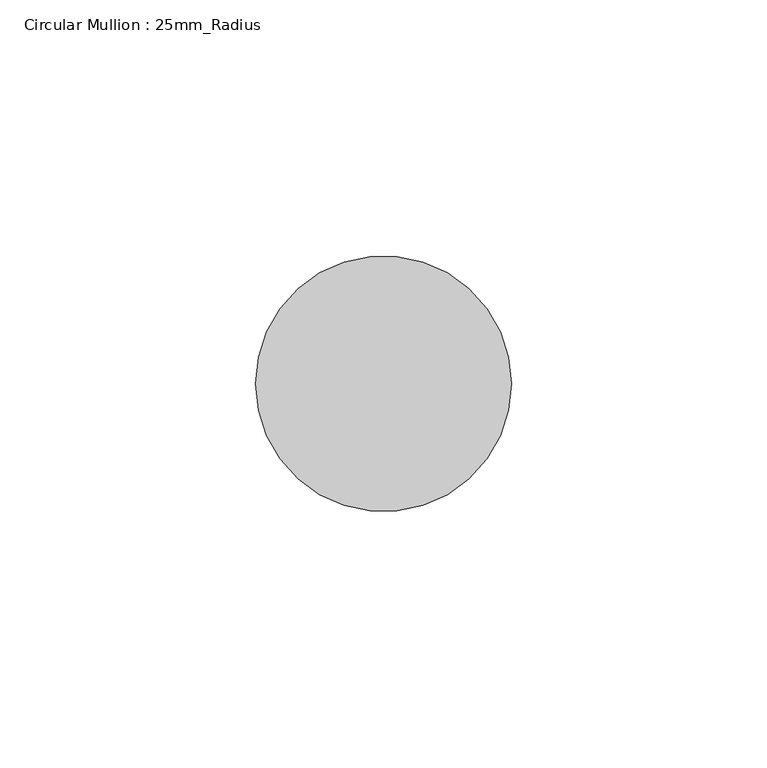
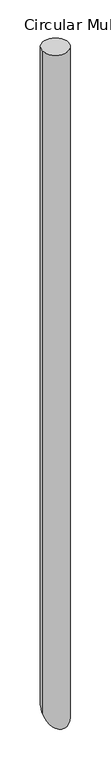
"""IFC4 building model written with IfcOpenShell, lengths in millimetres: member geometry, Circular Mullion : 25mm_Radius."""

from ifc_helpers import new_model, si_unit, frame, origin, place, context, project, spatial, circle_curve, ellipse_curve, source, transform, mapped, element, save
from ifc_brep_helpers import plane_surface, cylinder_surface, advanced_brep


def circular_mullion_25mm_radius_d9b63839(model_context):
    return source(origin(), model_context, "Body", "AdvancedBrep", [
        advanced_brep(
        [(0.0, 0.0, 0.0), (-50.0, 0.0, 0.0), (0.0, 0.0, -1346.7743851), (-50.0, 0.0, -1346.7743851)],
        [
            (0, 1, circle_curve(frame((-25.0, 0.0, 0.0), z_axis=(0.0, 0.0, 1.0), x_axis=(1.0, 0.0, 0.0)), 25.0)),
            (1, 0, circle_curve(frame((-25.0, 0.0, 0.0), z_axis=(0.0, 0.0, 1.0), x_axis=(1.0, 0.0, 0.0)), 25.0)),
            (0, 2),
            (2, 3, ellipse_curve(frame((-25.0, 0.0, -1346.7743851), z_axis=(0.0, -0.7071067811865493, 0.7071067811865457), x_axis=(0.0, 0.7071067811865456, 0.7071067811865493)), 35.3553391, 25.0)),
            (3, 1),
            (3, 2, ellipse_curve(frame((-25.0, 0.0, -1346.7743851), z_axis=(0.0, -0.7071067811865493, 0.7071067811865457), x_axis=(0.0, 0.7071067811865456, 0.7071067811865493)), 35.3553391, 25.0)),
        ],
        [
            plane_surface(frame((0.0, -50.0, 0.0), z_axis=(0.0, 0.0, 1.0), x_axis=(-1.0, 0.0, 0.0))),
            cylinder_surface(frame((-25.0, 0.0, 0.0), z_axis=(0.0, 0.0, 1.0), x_axis=(1.0, 0.0, 0.0)), 25.0),
            plane_surface(frame((-304.8, 0.0, -1346.7743851), z_axis=(0.0, 0.7071067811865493, -0.7071067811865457), x_axis=(0.0, 0.7071067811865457, 0.7071067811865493))),
        ],
        [
            (0, [[1, 2]]),
            (1, [[-1, 3, 4, 5]]),
            (1, [[-2, -5, 6, -3]]),
            (2, [[-6, -4]]),
        ],
    ),
    ])


if __name__ == "__main__":
    model = new_model("IFC4")
    model_context = context("Model", 3, world=origin())
    ifc_project = project(units=[si_unit("LENGTHUNIT", "METRE", prefix="MILLI")], contexts=[model_context])
    site = spatial("IfcSite", under=ifc_project)
    building = spatial("IfcBuilding", under=site)
    placement = place(None, origin())
    circular_mullion_25mm_radius_shape = circular_mullion_25mm_radius_d9b63839(model_context)
    element("IfcMember", 1, ObjectType="Circular Mullion : 25mm_Radius", at=placement, inside=building, context=model_context, shape_type="MappedRepresentation", body=[
        mapped(circular_mullion_25mm_radius_shape, transform((0.0, 0.0, 0.0), x_axis=(1.0, 0.0, 0.0), y_axis=(0.0, 1.0, 0.0), z_axis=(0.0, 0.0, 1.0))),
    ])
    save(model, "model.ifc")
